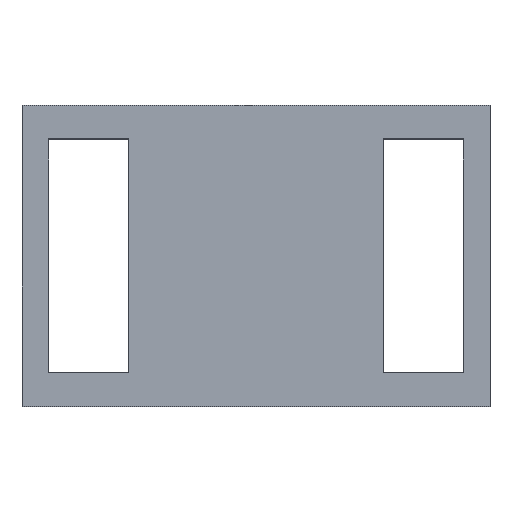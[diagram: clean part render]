
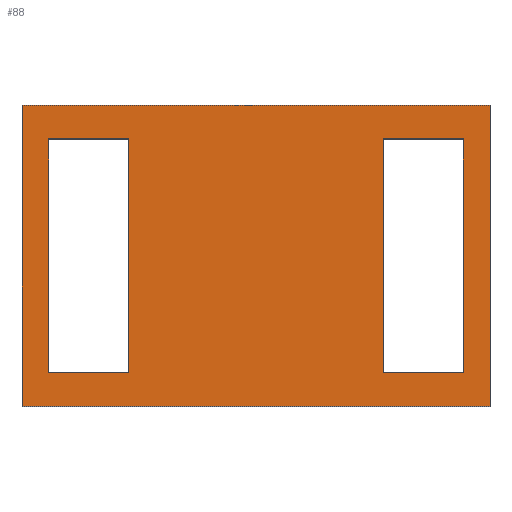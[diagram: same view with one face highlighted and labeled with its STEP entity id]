
A CAD part, top view. The second image highlights one B-rep face of the part: STEP entity #88.
In plain terms, the highlighted planar face has unit normal (0, 0, 1).
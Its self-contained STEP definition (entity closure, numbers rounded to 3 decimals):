
#24 = VERTEX_POINT('',#25);
#25 = CARTESIAN_POINT('',(41.5,104.,23.74));
#40 = VERTEX_POINT('',#41);
#41 = CARTESIAN_POINT('',(41.5,113.,23.74));
#47 = EDGE_CURVE('',#24,#40,#48,.T.);
#48 = LINE('',#49,#50);
#49 = CARTESIAN_POINT('',(41.5,104.,23.74));
#50 = VECTOR('',#51,1.);
#51 = DIRECTION('',(-0.,1.,0.));
#70 = EDGE_CURVE('',#24,#71,#73,.T.);
#71 = VERTEX_POINT('',#72);
#72 = CARTESIAN_POINT('',(55.5,104.,23.74));
#73 = LINE('',#74,#75);
#74 = CARTESIAN_POINT('',(41.5,104.,23.74));
#75 = VECTOR('',#76,1.);
#76 = DIRECTION('',(1.,0.,-0.));
#88 = ADVANCED_FACE('',(#89,#107,#141),#175,.T.);
#89 = FACE_BOUND('',#90,.T.);
#90 = EDGE_LOOP('',(#91,#92,#93,#101));
#91 = ORIENTED_EDGE('',*,*,#47,.F.);
#92 = ORIENTED_EDGE('',*,*,#70,.T.);
#93 = ORIENTED_EDGE('',*,*,#94,.T.);
#94 = EDGE_CURVE('',#71,#95,#97,.T.);
#95 = VERTEX_POINT('',#96);
#96 = CARTESIAN_POINT('',(55.5,113.,23.74));
#97 = LINE('',#98,#99);
#98 = CARTESIAN_POINT('',(55.5,104.,23.74));
#99 = VECTOR('',#100,1.);
#100 = DIRECTION('',(-0.,1.,0.));
#101 = ORIENTED_EDGE('',*,*,#102,.F.);
#102 = EDGE_CURVE('',#40,#95,#103,.T.);
#103 = LINE('',#104,#105);
#104 = CARTESIAN_POINT('',(41.5,113.,23.74));
#105 = VECTOR('',#106,1.);
#106 = DIRECTION('',(1.,0.,-0.));
#107 = FACE_BOUND('',#108,.T.);
#108 = EDGE_LOOP('',(#109,#119,#127,#135));
#109 = ORIENTED_EDGE('',*,*,#110,.T.);
#110 = EDGE_CURVE('',#111,#113,#115,.T.);
#111 = VERTEX_POINT('',#112);
#112 = CARTESIAN_POINT('',(44.7,105.,23.74));
#113 = VERTEX_POINT('',#114);
#114 = CARTESIAN_POINT('',(42.3,105.,23.74));
#115 = LINE('',#116,#117);
#116 = CARTESIAN_POINT('',(41.9,105.,23.74));
#117 = VECTOR('',#118,1.);
#118 = DIRECTION('',(-1.,-0.,0.));
#119 = ORIENTED_EDGE('',*,*,#120,.T.);
#120 = EDGE_CURVE('',#113,#121,#123,.T.);
#121 = VERTEX_POINT('',#122);
#122 = CARTESIAN_POINT('',(42.3,112.,23.74));
#123 = LINE('',#124,#125);
#124 = CARTESIAN_POINT('',(42.3,104.5,23.74));
#125 = VECTOR('',#126,1.);
#126 = DIRECTION('',(-0.,1.,0.));
#127 = ORIENTED_EDGE('',*,*,#128,.F.);
#128 = EDGE_CURVE('',#129,#121,#131,.T.);
#129 = VERTEX_POINT('',#130);
#130 = CARTESIAN_POINT('',(44.7,112.,23.74));
#131 = LINE('',#132,#133);
#132 = CARTESIAN_POINT('',(41.9,112.,23.74));
#133 = VECTOR('',#134,1.);
#134 = DIRECTION('',(-1.,-0.,0.));
#135 = ORIENTED_EDGE('',*,*,#136,.F.);
#136 = EDGE_CURVE('',#111,#129,#137,.T.);
#137 = LINE('',#138,#139);
#138 = CARTESIAN_POINT('',(44.7,104.5,23.74));
#139 = VECTOR('',#140,1.);
#140 = DIRECTION('',(-0.,1.,0.));
#141 = FACE_BOUND('',#142,.T.);
#142 = EDGE_LOOP('',(#143,#153,#161,#169));
#143 = ORIENTED_EDGE('',*,*,#144,.T.);
#144 = EDGE_CURVE('',#145,#147,#149,.T.);
#145 = VERTEX_POINT('',#146);
#146 = CARTESIAN_POINT('',(54.7,105.,23.74));
#147 = VERTEX_POINT('',#148);
#148 = CARTESIAN_POINT('',(52.3,105.,23.74));
#149 = LINE('',#150,#151);
#150 = CARTESIAN_POINT('',(46.9,105.,23.74));
#151 = VECTOR('',#152,1.);
#152 = DIRECTION('',(-1.,-0.,0.));
#153 = ORIENTED_EDGE('',*,*,#154,.T.);
#154 = EDGE_CURVE('',#147,#155,#157,.T.);
#155 = VERTEX_POINT('',#156);
#156 = CARTESIAN_POINT('',(52.3,112.,23.74));
#157 = LINE('',#158,#159);
#158 = CARTESIAN_POINT('',(52.3,104.5,23.74));
#159 = VECTOR('',#160,1.);
#160 = DIRECTION('',(-0.,1.,0.));
#161 = ORIENTED_EDGE('',*,*,#162,.F.);
#162 = EDGE_CURVE('',#163,#155,#165,.T.);
#163 = VERTEX_POINT('',#164);
#164 = CARTESIAN_POINT('',(54.7,112.,23.74));
#165 = LINE('',#166,#167);
#166 = CARTESIAN_POINT('',(46.9,112.,23.74));
#167 = VECTOR('',#168,1.);
#168 = DIRECTION('',(-1.,-0.,0.));
#169 = ORIENTED_EDGE('',*,*,#170,.F.);
#170 = EDGE_CURVE('',#145,#163,#171,.T.);
#171 = LINE('',#172,#173);
#172 = CARTESIAN_POINT('',(54.7,104.5,23.74));
#173 = VECTOR('',#174,1.);
#174 = DIRECTION('',(-0.,1.,0.));
#175 = PLANE('',#176);
#176 = AXIS2_PLACEMENT_3D('',#177,#178,#179);
#177 = CARTESIAN_POINT('',(41.5,104.,23.74));
#178 = DIRECTION('',(0.,0.,1.));
#179 = DIRECTION('',(1.,0.,-0.));
